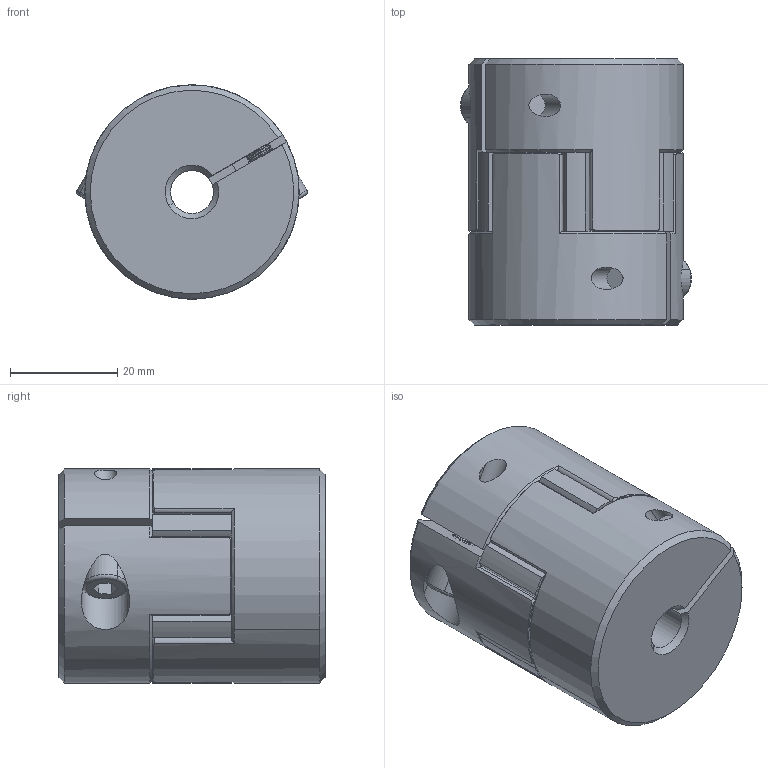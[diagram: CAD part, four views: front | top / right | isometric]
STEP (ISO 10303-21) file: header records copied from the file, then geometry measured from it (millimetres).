
FILE_DESCRIPTION (( 'STEP AP214' ), '1' );
FILE_NAME ('LF-B-D40L50-8-8.STEP', '2021-10-25T02:24:32', ( '' ), ( '' ), 'SwSTEP 2.0', 'SolidWorks 2018', '' );
FILE_SCHEMA (( 'AUTOMOTIVE_DESIGN' ));
Length unit declared in the file: millimetre
Products named in the file (1): LF-B-D40L50-8-8
Bounding box: 43.11 x 49.7 x 40 mm (x, y, z)
Volume: 55033.7 mm3; surface area: 14622.7 mm2
Topology: 1 solids, 7 shells, 471 faces, 1117 edges, 662 vertices
Faces by surface type: cone 170, cylinder 169, plane 128, torus 4
Entity records: 13929 total; most frequent: CARTESIAN_POINT 2895, DIRECTION 2509, ORIENTED_EDGE 2226, EDGE_CURVE 1113, AXIS2_PLACEMENT_3D 1040, VERTEX_POINT 662, CIRCLE 568, EDGE_LOOP 487
